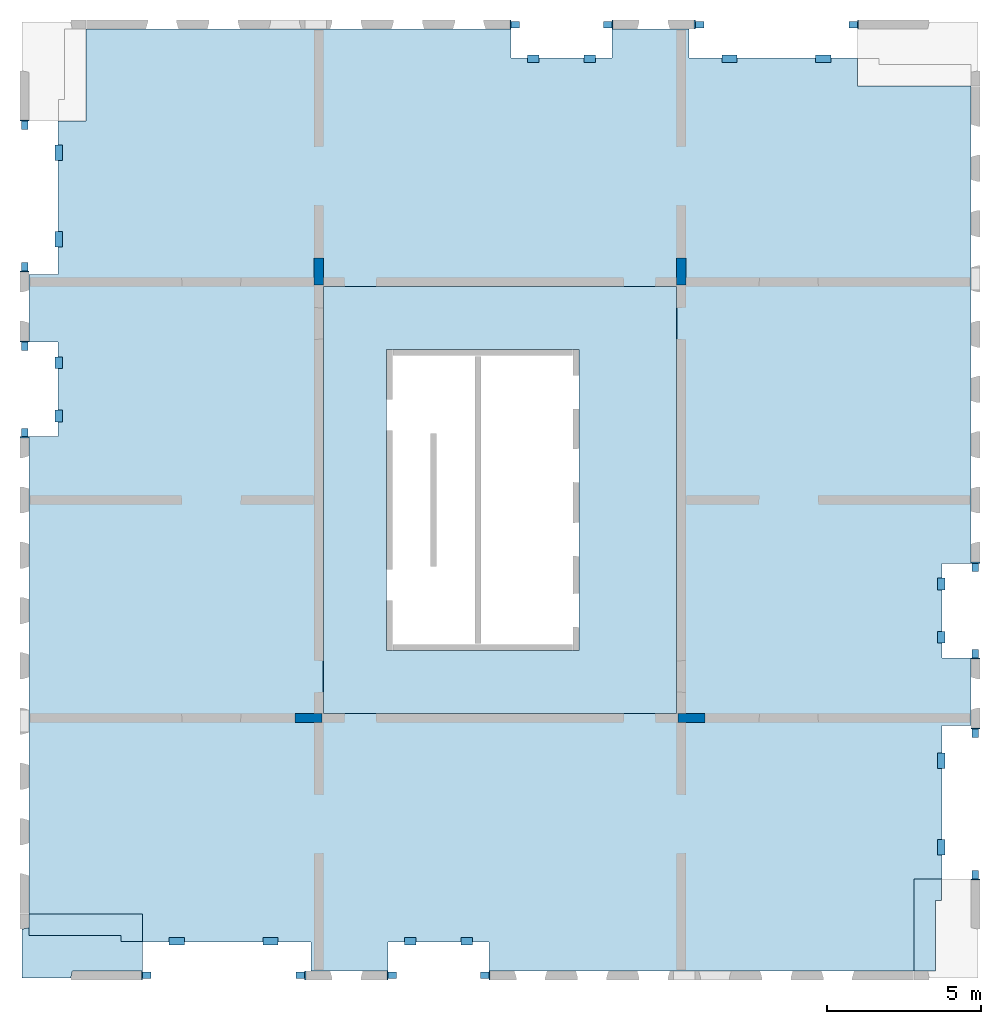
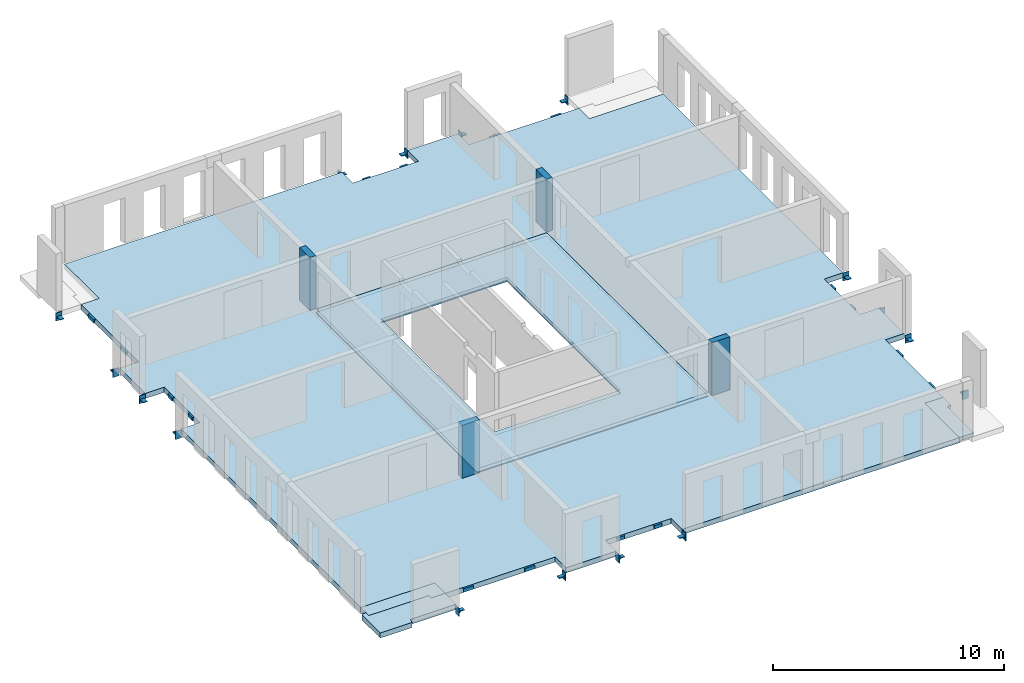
# One storey, part 1 of 4: 32 beams, 6 slabs, 4 columns, 3 openings.
"""IFC2X3 building model written with IfcOpenShell, lengths in millimetres."""

from ifc_helpers import new_model, entity, si_unit, converted_unit, derived_unit, direction, frame, frame_2d, origin, origin_2d_with_axis, place, context, subcontext, project, spatial, polyline, rectangle, outline, extrude, source, transform, mapped, material, layer, layer_set, layer_usage, type_object, type_shapes, element, save


model = new_model("IFC2X3")

# Units and contexts
model_context = context("Model", 3, precision=0.01, world=origin(), true_north=direction((6.12303176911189e-17, 1.0)))
body_context = subcontext(model_context, "Body", "Model", "MODEL_VIEW")
ifc_project = project(units=[si_unit("LENGTHUNIT", "METRE", prefix="MILLI"), si_unit("AREAUNIT", "SQUARE_METRE"), si_unit("VOLUMEUNIT", "CUBIC_METRE"), converted_unit("PLANEANGLEUNIT", "DEGREE", entity("IfcRatioMeasure", 0.0174532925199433), si_unit("PLANEANGLEUNIT", "RADIAN"), dimensions=[0, 0, 0, 0, 0, 0, 0]), si_unit("MASSUNIT", "GRAM", prefix="KILO"), derived_unit("MASSDENSITYUNIT", [(si_unit("MASSUNIT", "GRAM", prefix="KILO"), 1), (si_unit("LENGTHUNIT", "METRE"), -3)]), si_unit("TIMEUNIT", "SECOND"), si_unit("FREQUENCYUNIT", "HERTZ"), si_unit("THERMODYNAMICTEMPERATUREUNIT", "DEGREE_CELSIUS"), derived_unit("THERMALTRANSMITTANCEUNIT", [(si_unit("MASSUNIT", "GRAM", prefix="KILO"), 1), (si_unit("THERMODYNAMICTEMPERATUREUNIT", "KELVIN"), -1), (si_unit("TIMEUNIT", "SECOND"), -3)]), derived_unit("VOLUMETRICFLOWRATEUNIT", [(si_unit("LENGTHUNIT", "METRE"), 3), (si_unit("TIMEUNIT", "SECOND"), -1)]), si_unit("ELECTRICCURRENTUNIT", "AMPERE"), si_unit("ELECTRICVOLTAGEUNIT", "VOLT"), si_unit("POWERUNIT", "WATT"), si_unit("FORCEUNIT", "NEWTON", prefix="KILO"), si_unit("ILLUMINANCEUNIT", "LUX"), si_unit("LUMINOUSFLUXUNIT", "LUMEN"), si_unit("LUMINOUSINTENSITYUNIT", "CANDELA"), derived_unit("USERDEFINED", [(si_unit("MASSUNIT", "GRAM", prefix="KILO"), -1), (si_unit("LENGTHUNIT", "METRE"), -2), (si_unit("TIMEUNIT", "SECOND"), 3), (si_unit("LUMINOUSFLUXUNIT", "LUMEN"), 1)]), derived_unit("LINEARVELOCITYUNIT", [(si_unit("LENGTHUNIT", "METRE"), 1), (si_unit("TIMEUNIT", "SECOND"), -1)]), si_unit("PRESSUREUNIT", "PASCAL"), derived_unit("USERDEFINED", [(si_unit("LENGTHUNIT", "METRE"), -2), (si_unit("MASSUNIT", "GRAM", prefix="KILO"), 1), (si_unit("TIMEUNIT", "SECOND"), -2)])], contexts=[model_context])

# Site, building, storey
site_placement = place(None, origin())
site = spatial("IfcSite", under=ifc_project, at=site_placement, Name="Default", CompositionType="ELEMENT")
building_placement = place(site_placement, origin())
building = spatial("IfcBuilding", under=site, at=building_placement, Name="niet gebruiken", CompositionType="ELEMENT")
storey_placement = place(building_placement, frame((0.0, 0.0, 128160.0)))
storey = spatial("IfcBuildingStorey", under=building, at=storey_placement, Name="41 eenenveertigste verdieping", CompositionType="ELEMENT", Elevation=128160.0)

# Columns
ifc_material_1 = material(Name="NLRS_f2_beton ihwg")
column_type_1 = type_object("IfcColumnType", Name="300x880", PredefinedType="COLUMN", material=ifc_material_1)
shared_shape_1 = source(origin(), body_context, "Body", "SweptSolid", [
    extrude(rectangle(XDim=879.999999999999, YDim=300.000000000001, at=origin_2d_with_axis()), frame((135850.0, 24940.0, 128070.0), z_axis=(0.0, 0.0, 1.0), x_axis=(0.0, -1.0, 0.0)), (0.0, 0.0, 1.0), 2789.99999999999),
])
type_shapes(column_type_1, [shared_shape_1])
column_1_placement = place(storey_placement, frame((0.0, 0.0, -128160.0)))
element("IfcColumn", 1, at=column_1_placement, inside=storey, type_object=column_type_1, material=ifc_material_1, Name="NLRS_28.11_SCO_TLB_beton kolom ihwg_gen:300x880", ObjectType="300x880", context=body_context, shape_type="MappedRepresentation", body=[
    mapped(shared_shape_1, transform((0.0, 0.0, 0.0), scale=1.0)),
])
column_type_2 = type_object("IfcColumnType", Name="300x880", PredefinedType="COLUMN", material=ifc_material_1)
shared_shape_2 = source(origin(), body_context, "Body", "SweptSolid", [
    extrude(rectangle(XDim=879.999999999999, YDim=300.000000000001, at=origin_2d_with_axis()), frame((147650.0, 24940.0, 128070.0), z_axis=(0.0, 0.0, 1.0), x_axis=(0.0, -1.0, 0.0)), (0.0, 0.0, 1.0), 2789.99999999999),
])
type_shapes(column_type_2, [shared_shape_2])
column_2_placement = place(storey_placement, frame((0.0, 0.0, -128160.0)))
element("IfcColumn", 2, at=column_2_placement, inside=storey, type_object=column_type_2, material=ifc_material_1, Name="NLRS_28.11_SCO_TLB_beton kolom ihwg_gen:300x880", ObjectType="300x880", context=body_context, shape_type="MappedRepresentation", body=[
    mapped(shared_shape_2, transform((0.0, 0.0, 0.0), scale=1.0)),
])
column_type_3 = type_object("IfcColumnType", Name="300x880", PredefinedType="COLUMN", material=ifc_material_1)
shared_shape_3 = source(origin(), body_context, "Body", "SweptSolid", [
    extrude(rectangle(XDim=300.000000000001, YDim=880.000000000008, at=origin_2d_with_axis()), frame((135510.003540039, 10400.0, 128070.0), z_axis=(0.0, 0.0, 1.0), x_axis=(0.0, -1.0, 0.0)), (0.0, 0.0, 1.0), 2789.99999999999),
])
type_shapes(column_type_3, [shared_shape_3])
column_3_placement = place(storey_placement, frame((0.0, 0.0, -128160.0)))
element("IfcColumn", 3, at=column_3_placement, inside=storey, type_object=column_type_3, material=ifc_material_1, Name="NLRS_28.11_SCO_TLB_beton kolom ihwg_gen:300x880", ObjectType="300x880", context=body_context, shape_type="MappedRepresentation", body=[
    mapped(shared_shape_3, transform((0.0, 0.0, 0.0), scale=1.0)),
])
column_type_4 = type_object("IfcColumnType", Name="300x880", PredefinedType="COLUMN", material=ifc_material_1)
shared_shape_4 = source(origin(), body_context, "Body", "SweptSolid", [
    extrude(rectangle(XDim=300.000000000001, YDim=880.000000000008, at=origin_2d_with_axis()), frame((147990.0, 10400.0, 128070.0), z_axis=(0.0, 0.0, 1.0), x_axis=(0.0, -1.0, 0.0)), (0.0, 0.0, 1.0), 2789.99999999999),
])
type_shapes(column_type_4, [shared_shape_4])
column_4_placement = place(storey_placement, frame((0.0, 0.0, -128160.0)))
element("IfcColumn", 4, at=column_4_placement, inside=storey, type_object=column_type_4, material=ifc_material_1, Name="NLRS_28.11_SCO_TLB_beton kolom ihwg_gen:300x880", ObjectType="300x880", context=body_context, shape_type="MappedRepresentation", body=[
    mapped(shared_shape_4, transform((0.0, 0.0, 0.0), scale=1.0)),
])

# Beams
ifc_material_2 = material(Name="NLRS_h2_staal")
beam_type_1 = type_object("IfcBeamType", Name="NLRS_28.11_SF_WPB_stalen schoen 4_gen", PredefinedType="BEAM", material=ifc_material_2)
shared_shape_5 = source(origin(), body_context, "Body", "SweptSolid", [
    extrude(outline(polyline([(-69.4999999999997, -23.0), (8.49999999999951, -23.0), (30.5, -1.0), (30.5000000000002, 47.0), (-69.4999999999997, -23.0)])), frame((-105.0, -109.499999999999, -58.0), z_axis=(1.0, 0.0, 0.0), x_axis=(0.0, -1.0, 0.0)), (0.0, 0.0, 1.0), 35.0),
    extrude(outline(polyline([(-69.4999999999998, -23.0), (8.49999999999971, -23.0), (30.5, -1.0), (30.5000000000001, 47.0), (-69.4999999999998, -23.0)])), frame((70.0, -109.499999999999, -58.0), z_axis=(1.0, 0.0, 0.0), x_axis=(0.0, -1.0, 0.0)), (0.0, 0.0, 1.0), 35.0),
    extrude(rectangle(XDim=300.0, YDim=34.9999999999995, at=origin_2d_with_axis()), frame((0.0, -157.5, -230.0), z_axis=(0.0, 0.0, 1.0), x_axis=(-1.0, 0.0, 0.0)), (0.0, 0.0, 1.0), 420.0),
    extrude(rectangle(XDim=210.000000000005, YDim=274.999999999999, at=origin_2d_with_axis()), frame((0.0, -2.4999999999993, -35.0), z_axis=(0.0, 0.0, 1.0), x_axis=(-1.0, 0.0, 0.0)), (0.0, 0.0, 1.0), 35.0),
])
type_shapes(beam_type_1, [shared_shape_5])
beam_1_placement = place(storey_placement, frame((126270.0, 22500.0, -310.0), z_axis=(0.0, 0.0, 1.0), x_axis=(-1.0, 0.0, 0.0)))
element("IfcBeam", 5, at=beam_1_placement, inside=storey, type_object=beam_type_1, material=ifc_material_2, Name="NLRS_28.11_SF_WPB_stalen schoen 4_gen:NLRS_28.11_SF_WPB_stalen schoen 4_gen", ObjectType="NLRS_28.11_SF_WPB_stalen schoen 4_gen", context=body_context, shape_type="MappedRepresentation", body=[
    mapped(shared_shape_5, transform((0.0, 0.0, 0.0), scale=1.0)),
])
beam_2_placement = place(storey_placement, frame((126270.0, 19700.0, -310.0)))
element("IfcBeam", 6, at=beam_2_placement, inside=storey, type_object=beam_type_1, material=ifc_material_2, Name="NLRS_28.11_SF_WPB_stalen schoen 4_gen:NLRS_28.11_SF_WPB_stalen schoen 4_gen", ObjectType="NLRS_28.11_SF_WPB_stalen schoen 4_gen", context=body_context, shape_type="MappedRepresentation", body=[
    mapped(shared_shape_5, transform((0.0, 0.0, 0.0), scale=1.0)),
])
for number, where, z_axis, x_axis, name in (
    (7, (138250.0, 2020.0, -310.0), (0.0, 0.0, 1.0), (0.0, -1.0, 0.0), "NLRS_28.11_SF_WPB_stalen schoen 4_gen:NLRS_28.11_SF_WPB_stalen schoen 4_gen"),
    (8, (141250.0, 2020.0, -310.0), (0.0, 0.0, 1.0), (0.0, 1.0, 0.0), "NLRS_28.11_SF_WPB_stalen schoen 4_gen:NLRS_28.11_SF_WPB_stalen schoen 4_gen"),
):
    element("IfcBeam", number, at=place(storey_placement, frame(where, z_axis=z_axis, x_axis=x_axis)), inside=storey, type_object=beam_type_1, material=ifc_material_2, Name=name, ObjectType="NLRS_28.11_SF_WPB_stalen schoen 4_gen", context=body_context, shape_type="MappedRepresentation", body=[
        mapped(shared_shape_5, transform((0.0, 0.0, 0.0), scale=1.0)),
    ])
beam_3_placement = place(storey_placement, frame((157230.0, 12500.0, -310.0)))
element("IfcBeam", 9, at=beam_3_placement, inside=storey, type_object=beam_type_1, material=ifc_material_2, Name="NLRS_28.11_SF_WPB_stalen schoen 4_gen:NLRS_28.11_SF_WPB_stalen schoen 4_gen", ObjectType="NLRS_28.11_SF_WPB_stalen schoen 4_gen", context=body_context, shape_type="MappedRepresentation", body=[
    mapped(shared_shape_5, transform((0.0, 0.0, 0.0), scale=1.0)),
])
for number, where, z_axis, x_axis, name in (
    (10, (157230.0, 15300.0, -310.0), (0.0, 0.0, 1.0), (-1.0, 0.0, 0.0), "NLRS_28.11_SF_WPB_stalen schoen 4_gen:NLRS_28.11_SF_WPB_stalen schoen 4_gen"),
    (11, (145250.0, 32980.0, -310.0), (0.0, 0.0, 1.0), (0.0, 1.0, 0.0), "NLRS_28.11_SF_WPB_stalen schoen 4_gen:NLRS_28.11_SF_WPB_stalen schoen 4_gen"),
    (12, (142250.0, 32980.0, -310.0), (0.0, 0.0, 1.0), (0.0, -1.0, 0.0), "NLRS_28.11_SF_WPB_stalen schoen 4_gen:NLRS_28.11_SF_WPB_stalen schoen 4_gen"),
):
    element("IfcBeam", number, at=place(storey_placement, frame(where, z_axis=z_axis, x_axis=x_axis)), inside=storey, type_object=beam_type_1, material=ifc_material_2, Name=name, ObjectType="NLRS_28.11_SF_WPB_stalen schoen 4_gen", context=body_context, shape_type="MappedRepresentation", body=[
        mapped(shared_shape_5, transform((0.0, 0.0, 0.0), scale=1.0)),
    ])
beam_type_2 = type_object("IfcBeamType", Name="NLRS_28.11_SF_WPB_stalen schoen 3_gen", PredefinedType="BEAM", material=ifc_material_2)
shared_shape_6 = source(origin(), body_context, "Body", "SweptSolid", [
    extrude(outline(polyline([(-69.4999999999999, -23.0), (8.49999999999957, -23.0), (30.5000000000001, -1.0), (30.5000000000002, 47.0), (-69.4999999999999, -23.0)])), frame((-105.0, -109.499999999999, -63.0), z_axis=(1.0, 0.0, 0.0), x_axis=(0.0, -1.0, 0.0)), (0.0, 0.0, 1.0), 40.0),
    extrude(outline(polyline([(-69.4999999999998, -23.0), (8.49999999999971, -23.0), (30.5, -1.0), (30.5000000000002, 47.0), (-69.4999999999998, -23.0)])), frame((65.0, -109.499999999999, -63.0), z_axis=(1.0, 0.0, 0.0), x_axis=(0.0, -1.0, 0.0)), (0.0, 0.0, 1.0), 40.0),
    extrude(rectangle(XDim=300.0, YDim=39.9999999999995, at=origin_2d_with_axis()), frame((0.0, -160.0, -230.0), z_axis=(0.0, 0.0, 1.0), x_axis=(-1.0, 0.0, 0.0)), (0.0, 0.0, 1.0), 420.0),
    extrude(rectangle(XDim=210.000000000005, YDim=274.999999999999, at=origin_2d_with_axis()), frame((0.0, -2.49999999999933, -40.0), z_axis=(0.0, 0.0, 1.0), x_axis=(-1.0, 0.0, 0.0)), (0.0, 0.0, 1.0), 39.9999999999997),
])
type_shapes(beam_type_2, [shared_shape_6])
beam_4_placement = place(storey_placement, frame((126270.0, 25100.0, -310.0)))
element("IfcBeam", 13, at=beam_4_placement, inside=storey, type_object=beam_type_2, material=ifc_material_2, Name="NLRS_28.11_SF_WPB_stalen schoen 3_gen:NLRS_28.11_SF_WPB_stalen schoen 3_gen", ObjectType="NLRS_28.11_SF_WPB_stalen schoen 3_gen", context=body_context, shape_type="MappedRepresentation", body=[
    mapped(shared_shape_6, transform((0.0, 0.0, 0.0), scale=1.0)),
])
for number, where, z_axis, x_axis, name in (
    (14, (126270.0, 29700.0, -310.0), (0.0, 0.0, 1.0), (-1.0, 0.0, 0.0), "NLRS_28.11_SF_WPB_stalen schoen 3_gen:NLRS_28.11_SF_WPB_stalen schoen 3_gen"),
    (15, (135250.0, 2020.0, -310.0), (0.0, 0.0, 1.0), (0.0, 1.0, 0.0), "NLRS_28.11_SF_WPB_stalen schoen 3_gen:NLRS_28.11_SF_WPB_stalen schoen 3_gen"),
    (16, (130250.0, 2020.0, -310.0), (0.0, 0.0, 1.0), (0.0, -1.0, 0.0), "NLRS_28.11_SF_WPB_stalen schoen 3_gen:NLRS_28.11_SF_WPB_stalen schoen 3_gen"),
    (17, (157230.0, 9900.0, -310.0), (0.0, 0.0, 1.0), (-1.0, 0.0, 0.0), "NLRS_28.11_SF_WPB_stalen schoen 3_gen:NLRS_28.11_SF_WPB_stalen schoen 3_gen"),
):
    element("IfcBeam", number, at=place(storey_placement, frame(where, z_axis=z_axis, x_axis=x_axis)), inside=storey, type_object=beam_type_2, material=ifc_material_2, Name=name, ObjectType="NLRS_28.11_SF_WPB_stalen schoen 3_gen", context=body_context, shape_type="MappedRepresentation", body=[
        mapped(shared_shape_6, transform((0.0, 0.0, 0.0), scale=1.0)),
    ])
beam_5_placement = place(storey_placement, frame((157230.0, 5300.0, -310.0)))
element("IfcBeam", 18, at=beam_5_placement, inside=storey, type_object=beam_type_2, material=ifc_material_2, Name="NLRS_28.11_SF_WPB_stalen schoen 3_gen:NLRS_28.11_SF_WPB_stalen schoen 3_gen", ObjectType="NLRS_28.11_SF_WPB_stalen schoen 3_gen", context=body_context, shape_type="MappedRepresentation", body=[
    mapped(shared_shape_6, transform((0.0, 0.0, 0.0), scale=1.0)),
])
for number, where, z_axis, x_axis, name in (
    (19, (148250.0, 32980.0, -310.0), (0.0, 0.0, 1.0), (0.0, -1.0, 0.0), "NLRS_28.11_SF_WPB_stalen schoen 3_gen:NLRS_28.11_SF_WPB_stalen schoen 3_gen"),
    (20, (153250.0, 32980.0, -310.0), (0.0, 0.0, 1.0), (0.0, 1.0, 0.0), "NLRS_28.11_SF_WPB_stalen schoen 3_gen:NLRS_28.11_SF_WPB_stalen schoen 3_gen"),
):
    element("IfcBeam", number, at=place(storey_placement, frame(where, z_axis=z_axis, x_axis=x_axis)), inside=storey, type_object=beam_type_2, material=ifc_material_2, Name=name, ObjectType="NLRS_28.11_SF_WPB_stalen schoen 3_gen", context=body_context, shape_type="MappedRepresentation", body=[
        mapped(shared_shape_6, transform((0.0, 0.0, 0.0), scale=1.0)),
    ])
beam_type_3 = type_object("IfcBeamType", Name="NLRS_28.11_SF_WPB_stalen handje 7 lang 375_gen:NLRS_28.11_SF_WPB_stalen handje 7_gen", PredefinedType="BEAM")
beam_6_placement = place(storey_placement, frame((127264.874984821, 25744.7511353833, -93.0), z_axis=(0.0, 0.0, 1.0), x_axis=(0.0, 1.0, 0.0)))
element("IfcBeam", 21, at=beam_6_placement, inside=storey, type_object=beam_type_3, material=ifc_material_2, Name="NLRS_28.11_SF_WPB_stalen handje 7 lang 375_gen:NLRS_28.11_SF_WPB_stalen handje 7_gen", ObjectType="NLRS_28.11_SF_WPB_stalen handje 7 lang 375_gen:NLRS_28.11_SF_WPB_stalen handje 7_gen", context=body_context, shape_type="SweptSolid", body=[
    extrude(outline(polyline([(-70.6666666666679, -153.333333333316), (-40.6666666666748, -153.333333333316), (-40.6666666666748, 61.6666666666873), (111.333333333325, 61.66666666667), (111.333333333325, 91.6666666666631), (-70.6666666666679, 91.6666666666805), (-70.6666666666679, -153.333333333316)])), frame((0.0, -91.6666666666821, -70.6666666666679), z_axis=(1.0, 0.0, 0.0), x_axis=(0.0, 0.0, -1.0)), (0.0, 0.0, 1.0), 500.000000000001),
])
beam_7_placement = place(storey_placement, frame((127264.874984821, 28554.7541756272, -93.0), z_axis=(0.0, 0.0, 1.0), x_axis=(0.0, 1.0, 0.0)))
element("IfcBeam", 22, at=beam_7_placement, inside=storey, type_object=beam_type_3, material=ifc_material_2, Name="NLRS_28.11_SF_WPB_stalen handje 7 lang 375_gen:NLRS_28.11_SF_WPB_stalen handje 7_gen", ObjectType="NLRS_28.11_SF_WPB_stalen handje 7 lang 375_gen:NLRS_28.11_SF_WPB_stalen handje 7_gen", context=body_context, shape_type="SweptSolid", body=[
    extrude(outline(polyline([(-70.6666666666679, -153.33333333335), (-40.6666666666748, -153.33333333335), (-40.6666666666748, 61.6666666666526), (111.333333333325, 61.6666666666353), (111.333333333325, 91.6666666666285), (-70.6666666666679, 91.6666666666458), (-70.6666666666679, -153.33333333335)])), frame((0.0, -91.6666666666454, -70.6666666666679), z_axis=(1.0, 0.0, 0.0), x_axis=(0.0, 0.0, -1.0)), (0.0, 0.0, 1.0), 500.000000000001),
])
for number, where, z_axis, x_axis, name in (
    (23, (140862.631597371, 3015.23611279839, -93.0), (0.0, 0.0, 1.0), (-1.0, 0.0, 0.0), "NLRS_28.11_SF_WPB_stalen handje 7 lang 375_gen:NLRS_28.11_SF_WPB_stalen handje 7_gen"),
    (24, (139012.628555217, 3015.23611279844, -93.0), (0.0, 0.0, 1.0), (-1.0, 0.0, 0.0), "NLRS_28.11_SF_WPB_stalen handje 7 lang 375_gen:NLRS_28.11_SF_WPB_stalen handje 7_gen"),
):
    element("IfcBeam", number, at=place(storey_placement, frame(where, z_axis=z_axis, x_axis=x_axis)), inside=storey, type_object=beam_type_3, material=ifc_material_2, Name=name, ObjectType="NLRS_28.11_SF_WPB_stalen handje 7 lang 375_gen:NLRS_28.11_SF_WPB_stalen handje 7_gen", context=body_context, shape_type="SweptSolid", body=[
        extrude(outline(polyline([(-70.666666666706, -153.333333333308), (-40.6666666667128, -153.333333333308), (-40.6666666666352, 61.6666666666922), (111.333333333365, 61.6666666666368), (111.333333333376, 91.6666666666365), (-70.6666666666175, 91.6666666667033), (-70.666666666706, -153.333333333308)])), frame((0.0, -91.6666666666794, -70.6666666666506), z_axis=(1.0, 0.0, 0.0), x_axis=(0.0, 0.0, -1.0)), (0.0, 0.0, 1.0), 375.000000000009),
    ])
for number, where, z_axis, x_axis, name in (
    (25, (134525.131597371, 3015.23611279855, -93.0), (0.0, 0.0, 1.0), (-1.0, 0.0, 0.0), "NLRS_28.11_SF_WPB_stalen handje 7 lang 375_gen:NLRS_28.11_SF_WPB_stalen handje 7_gen"),
    (26, (131475.128555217, 3015.23611279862, -93.0), (0.0, 0.0, 1.0), (-1.0, 0.0, 0.0), "NLRS_28.11_SF_WPB_stalen handje 7 lang 375_gen:NLRS_28.11_SF_WPB_stalen handje 7_gen"),
):
    element("IfcBeam", number, at=place(storey_placement, frame(where, z_axis=z_axis, x_axis=x_axis)), inside=storey, type_object=beam_type_3, material=ifc_material_2, Name=name, ObjectType="NLRS_28.11_SF_WPB_stalen handje 7 lang 375_gen:NLRS_28.11_SF_WPB_stalen handje 7_gen", context=body_context, shape_type="SweptSolid", body=[
        extrude(outline(polyline([(-70.6666666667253, -153.333333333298), (-40.6666666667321, -153.333333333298), (-40.6666666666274, 61.6666666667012), (111.333333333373, 61.6666666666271), (111.333333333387, 91.6666666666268), (-70.6666666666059, 91.666666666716), (-70.6666666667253, -153.333333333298)])), frame((0.0, -91.6666666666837, -70.6666666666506), z_axis=(1.0, 0.0, 0.0), x_axis=(0.0, 0.0, -1.0)), (0.0, 0.0, 1.0), 500.000000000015),
    ])
beam_8_placement = place(storey_placement, frame((156235.125015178, 9255.24886461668, -93.0), z_axis=(0.0, 0.0, 1.0), x_axis=(0.0, -1.0, 0.0)))
element("IfcBeam", 27, at=beam_8_placement, inside=storey, type_object=beam_type_3, material=ifc_material_2, Name="NLRS_28.11_SF_WPB_stalen handje 7 lang 375_gen:NLRS_28.11_SF_WPB_stalen handje 7_gen", ObjectType="NLRS_28.11_SF_WPB_stalen handje 7 lang 375_gen:NLRS_28.11_SF_WPB_stalen handje 7_gen", context=body_context, shape_type="SweptSolid", body=[
    extrude(outline(polyline([(-70.6666666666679, -153.33333333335), (-40.6666666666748, -153.33333333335), (-40.6666666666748, 61.6666666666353), (111.333333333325, 61.6666666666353), (111.333333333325, 91.6666666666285), (-70.6666666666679, 91.6666666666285), (-70.6666666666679, -153.33333333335)])), frame((0.0, -91.6666666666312, -70.6666666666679), z_axis=(1.0, 0.0, 0.0), x_axis=(0.0, 0.0, -1.0)), (0.0, 0.0, 1.0), 500.000000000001),
])
beam_9_placement = place(storey_placement, frame((156235.125015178, 6445.24582437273, -93.0), z_axis=(0.0, 0.0, 1.0), x_axis=(0.0, -1.0, 0.0)))
element("IfcBeam", 28, at=beam_9_placement, inside=storey, type_object=beam_type_3, material=ifc_material_2, Name="NLRS_28.11_SF_WPB_stalen handje 7 lang 375_gen:NLRS_28.11_SF_WPB_stalen handje 7_gen", ObjectType="NLRS_28.11_SF_WPB_stalen handje 7 lang 375_gen:NLRS_28.11_SF_WPB_stalen handje 7_gen", context=body_context, shape_type="SweptSolid", body=[
    extrude(outline(polyline([(-70.6666666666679, -153.33333333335), (-40.6666666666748, -153.33333333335), (-40.6666666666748, 61.6666666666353), (111.333333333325, 61.6666666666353), (111.333333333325, 91.6666666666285), (-70.6666666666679, 91.6666666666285), (-70.6666666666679, -153.33333333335)])), frame((0.0, -91.6666666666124, -70.6666666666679), z_axis=(1.0, 0.0, 0.0), x_axis=(0.0, 0.0, -1.0)), (0.0, 0.0, 1.0), 500.000000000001),
])
for number, where, name in (
    (29, (142637.368402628, 31984.7638872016, -93.0), "NLRS_28.11_SF_WPB_stalen handje 7 lang 375_gen:NLRS_28.11_SF_WPB_stalen handje 7_gen"),
    (30, (144487.371444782, 31984.7638872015, -93.0), "NLRS_28.11_SF_WPB_stalen handje 7 lang 375_gen:NLRS_28.11_SF_WPB_stalen handje 7_gen"),
):
    element("IfcBeam", number, at=place(storey_placement, frame(where)), inside=storey, type_object=beam_type_3, material=ifc_material_2, Name=name, ObjectType="NLRS_28.11_SF_WPB_stalen handje 7 lang 375_gen:NLRS_28.11_SF_WPB_stalen handje 7_gen", context=body_context, shape_type="SweptSolid", body=[
        extrude(outline(polyline([(-70.6666666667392, -153.333333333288), (-40.666666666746, -153.333333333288), (-40.6666666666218, 61.6666666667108), (111.333333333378, 61.666666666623), (111.333333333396, 91.6666666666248), (-70.6666666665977, 91.6666666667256), (-70.6666666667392, -153.333333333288)])), frame((0.0, -91.6666666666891, -70.6666666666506), z_axis=(1.0, 0.0, 0.0), x_axis=(0.0, 0.0, -1.0)), (0.0, 0.0, 1.0), 375.000000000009),
    ])
for number, where, name in (
    (31, (148974.868402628, 31984.7638872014, -93.0), "NLRS_28.11_SF_WPB_stalen handje 7 lang 375_gen:NLRS_28.11_SF_WPB_stalen handje 7_gen"),
    (32, (152024.871444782, 31984.7638872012, -93.0), "NLRS_28.11_SF_WPB_stalen handje 7 lang 375_gen:NLRS_28.11_SF_WPB_stalen handje 7_gen"),
):
    element("IfcBeam", number, at=place(storey_placement, frame(where)), inside=storey, type_object=beam_type_3, material=ifc_material_2, Name=name, ObjectType="NLRS_28.11_SF_WPB_stalen handje 7 lang 375_gen:NLRS_28.11_SF_WPB_stalen handje 7_gen", context=body_context, shape_type="SweptSolid", body=[
        extrude(outline(polyline([(-70.6666666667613, -153.333333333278), (-40.6666666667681, -153.333333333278), (-40.6666666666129, 61.6666666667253), (111.333333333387, 61.6666666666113), (111.333333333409, 91.6666666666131), (-70.6666666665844, 91.6666666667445), (-70.6666666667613, -153.333333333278)])), frame((0.0, -91.6666666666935, -70.6666666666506), z_axis=(1.0, 0.0, 0.0), x_axis=(0.0, 0.0, -1.0)), (0.0, 0.0, 1.0), 500.000000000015),
    ])
beam_10_placement = place(storey_placement, frame((156235.0, 14952.5097115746, -93.0), z_axis=(0.0, 0.0, 1.0), x_axis=(0.0, -1.0, 0.0)))
element("IfcBeam", 33, at=beam_10_placement, inside=storey, type_object=beam_type_3, material=ifc_material_2, Name="NLRS_28.11_SF_WPB_stalen handje 7 lang 375_gen:NLRS_28.11_SF_WPB_stalen handje 7_gen", ObjectType="NLRS_28.11_SF_WPB_stalen handje 7 lang 375_gen:NLRS_28.11_SF_WPB_stalen handje 7_gen", context=body_context, shape_type="SweptSolid", body=[
    extrude(outline(polyline([(-70.6666666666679, -153.333333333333), (-40.6666666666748, -153.333333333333), (-40.6666666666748, 61.66666666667), (111.333333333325, 61.66666666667), (111.333333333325, 91.6666666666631), (-70.6666666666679, 91.6666666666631), (-70.6666666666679, -153.333333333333)])), frame((0.0, -91.6666666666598, -70.6666666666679), z_axis=(1.0, 0.0, 0.0), x_axis=(0.0, 0.0, -1.0)), (0.0, 0.0, 1.0), 375.000000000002),
])
beam_11_placement = place(storey_placement, frame((156235.0, 13222.5097115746, -93.0), z_axis=(0.0, 0.0, 1.0), x_axis=(0.0, -1.0, 0.0)))
element("IfcBeam", 34, at=beam_11_placement, inside=storey, type_object=beam_type_3, material=ifc_material_2, Name="NLRS_28.11_SF_WPB_stalen handje 7 lang 375_gen:NLRS_28.11_SF_WPB_stalen handje 7_gen", ObjectType="NLRS_28.11_SF_WPB_stalen handje 7 lang 375_gen:NLRS_28.11_SF_WPB_stalen handje 7_gen", context=body_context, shape_type="SweptSolid", body=[
    extrude(outline(polyline([(-70.6666666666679, -153.333333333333), (-40.6666666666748, -153.333333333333), (-40.6666666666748, 61.66666666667), (111.333333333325, 61.66666666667), (111.333333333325, 91.6666666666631), (-70.6666666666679, 91.6666666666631), (-70.6666666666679, -153.333333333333)])), frame((0.0, -91.6666666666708, -70.6666666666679), z_axis=(1.0, 0.0, 0.0), x_axis=(0.0, 0.0, -1.0)), (0.0, 0.0, 1.0), 375.000000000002),
])
beam_12_placement = place(storey_placement, frame((127265.0, 20047.4902884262, -93.0), z_axis=(0.0, 0.0, 1.0), x_axis=(0.0, 1.0, 0.0)))
element("IfcBeam", 35, at=beam_12_placement, inside=storey, type_object=beam_type_3, material=ifc_material_2, Name="NLRS_28.11_SF_WPB_stalen handje 7 lang 375_gen:NLRS_28.11_SF_WPB_stalen handje 7_gen", ObjectType="NLRS_28.11_SF_WPB_stalen handje 7 lang 375_gen:NLRS_28.11_SF_WPB_stalen handje 7_gen", context=body_context, shape_type="SweptSolid", body=[
    extrude(outline(polyline([(-70.6666666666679, -153.333333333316), (-40.6666666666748, -153.333333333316), (-40.6666666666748, 61.6666666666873), (111.333333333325, 61.66666666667), (111.333333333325, 91.6666666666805), (-70.6666666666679, 91.6666666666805), (-70.6666666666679, -153.333333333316)])), frame((0.0, -91.6666666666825, -70.6666666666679), z_axis=(1.0, 0.0, 0.0), x_axis=(0.0, 0.0, -1.0)), (0.0, 0.0, 1.0), 375.000000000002),
])
beam_13_placement = place(storey_placement, frame((127265.0, 21777.4902884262, -93.0), z_axis=(0.0, 0.0, 1.0), x_axis=(0.0, 1.0, 0.0)))
element("IfcBeam", 36, at=beam_13_placement, inside=storey, type_object=beam_type_3, material=ifc_material_2, Name="NLRS_28.11_SF_WPB_stalen handje 7 lang 375_gen:NLRS_28.11_SF_WPB_stalen handje 7_gen", ObjectType="NLRS_28.11_SF_WPB_stalen handje 7 lang 375_gen:NLRS_28.11_SF_WPB_stalen handje 7_gen", context=body_context, shape_type="SweptSolid", body=[
    extrude(outline(polyline([(-70.6666666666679, -153.33333333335), (-40.6666666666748, -153.33333333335), (-40.6666666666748, 61.6666666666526), (111.333333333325, 61.6666666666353), (111.333333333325, 91.6666666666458), (-70.6666666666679, 91.6666666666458), (-70.6666666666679, -153.33333333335)])), frame((0.0, -91.6666666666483, -70.6666666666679), z_axis=(1.0, 0.0, 0.0), x_axis=(0.0, 0.0, -1.0)), (0.0, 0.0, 1.0), 375.000000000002),
])

# Slabs
ifc_layer_1 = layer(ifc_material_1, 170.0)
ifc_layer_set_1 = layer_set([ifc_layer_1], Name="Floor:NLRS_23.21_FL_beton ihwg d=170_gen")
ifc_layer_usage_1 = layer_usage(ifc_layer_set_1, "AXIS3", "POSITIVE", 0.0)
slab_1_placement = place(storey_placement, origin())
element("IfcSlab", 37, at=slab_1_placement, inside=storey, material=ifc_layer_usage_1, Name="Floor:NLRS_23.21_FL_beton ihwg d=170_gen", ObjectType="Floor:NLRS_23.21_FL_beton ihwg d=170_gen", PredefinedType="FLOOR", context=body_context, shape_type="SweptSolid", body=[
    extrude(outline(polyline([(-1760.0, -533.33333333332), (1230.0, -533.33333333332), (1230.0, 366.666666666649), (530.0, 366.666666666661), (530.0, 166.666666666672), (-1760.0, 166.666666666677), (-1760.0, -533.33333333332)])), frame((155763.333333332, 3930.0, -90.0), z_axis=(0.0, 0.0, -1.0), x_axis=(0.0, 1.0, 0.0)), (0.0, 0.0, 1.0), 169.999999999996),
])
ifc_material_3 = material(Name="NLRS_f2_beton prefab")
ifc_layer_2 = layer(ifc_material_3, 270.0)
ifc_layer_set_2 = layer_set([ifc_layer_2], Name="Floor:NLRS_23.22_FL_beton prefab d=270 3D element_gen")
ifc_layer_usage_2 = layer_usage(ifc_layer_set_2, "AXIS3", "POSITIVE", 0.0)
slab_2_placement = place(storey_placement, origin())
element("IfcSlab", 38, at=slab_2_placement, inside=storey, material=ifc_layer_usage_2, Name="Floor:NLRS_23.22_FL_beton prefab d=270 3D element_gen", ObjectType="Floor:NLRS_23.22_FL_beton prefab d=270 3D element_gen", PredefinedType="LANDING", context=body_context, shape_type="SweptSolid", body=[
    extrude(outline(polyline([(-982.471394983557, -1442.47139498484), (607.67594043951, -1442.47139498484), (655.152429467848, -1209.47139498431), (1100.52860501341, -1209.47139498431), (1100.52860501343, 2480.5286050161), (-749.471394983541, 2480.5286050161), (-749.471394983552, 195.15242946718), (-982.47139498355, 147.675940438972), (-982.471394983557, -1442.47139498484)])), frame((127629.471394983, 2919.47139499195, -90.0), z_axis=(0.0, 0.0, -1.0), x_axis=(0.0, 1.0, 0.0)), (0.0, 0.0, 1.0), 270.000000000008),
])
ifc_layer_usage_3 = layer_usage(ifc_layer_set_1, "AXIS3", "POSITIVE", 0.0)
slab_3_placement = place(storey_placement, origin())
element("IfcSlab", 39, at=slab_3_placement, inside=storey, material=ifc_layer_usage_3, Name="Floor:NLRS_23.21_FL_beton ihwg d=170_gen", ObjectType="Floor:NLRS_23.21_FL_beton ihwg d=170_gen", PredefinedType="FLOOR", context=body_context, shape_type="SweptSolid", body=[
    extrude(outline(polyline([(-166.666666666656, -2226.66666666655), (533.333333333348, -2226.66666666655), (533.333333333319, 1463.33333333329), (-366.666666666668, 1463.33333333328), (-366.666666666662, 763.333333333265), (-166.666666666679, 763.333333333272), (-166.666666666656, -2226.66666666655)])), frame((128646.666666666, 3486.66666667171, -90.0), z_axis=(0.0, 0.0, -1.0), x_axis=(0.0, 1.0, 0.0)), (0.0, 0.0, 1.0), 169.999999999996),
])

# Slab, opening
ifc_layer_3 = layer(ifc_material_1, 170.0)
ifc_layer_4 = layer(ifc_material_3, 100.0)
ifc_layer_set_3 = layer_set([ifc_layer_3, ifc_layer_4], Name="Floor:NLRS_23.21_FL_breedplaat d=100/270_gen")
ifc_layer_usage_4 = layer_usage(ifc_layer_set_3, "AXIS3", "POSITIVE", 0.0)
slab_4_placement = place(storey_placement, frame((126420.0, 2170.0, -360.0)))
slab_4 = element("IfcSlab", 40, at=slab_4_placement, inside=storey, material=ifc_layer_usage_4, Name="Floor:NLRS_23.21_FL_breedplaat d=100/270_gen", ObjectType="Floor:NLRS_23.21_FL_breedplaat d=100/270_gen", PredefinedType="FLOOR", context=body_context, shape_type="SweptSolid", body=[
    extrude(outline(polyline([(-360.0, 15330.0), (-360.0, 14385.0), (-3640.0, 14385.0), (-3640.0, 15330.0), (-6150.0, 15330.0), (-6150.0, 14385.0), (-11640.0, 14385.0), (-11640.0, 13480.0), (-15330.0, 13480.0), (-15330.0, -2060.0), (-14385.0, -2060.0), (-14385.0, -5140.0), (-15330.0, -5140.0), (-15330.0, -7350.0), (-14385.0, -7350.0), (-14385.0, -12340.0), (-13480.0, -12340.0), (-13480.0, -15330.0), (360.0, -15330.0), (360.0, -14385.0), (3640.0, -14385.0), (3640.0, -15330.0), (6150.0, -15330.0), (6150.0, -14385.0), (11640.0, -14385.0), (11640.0, -13480.0), (15330.0, -13480.0), (15330.0, 2060.0), (14385.0, 2060.0), (14385.0, 5140.0), (15330.0, 5140.0), (15330.0, 7350.0), (14385.0, 7350.0), (14385.0, 12340.0), (13480.0, 12340.0), (13480.0, 15330.0), (-360.0, 15330.0)])), frame((15330.0, 15330.0, 270.0), z_axis=(0.0, 0.0, -1.0), x_axis=(-1.0, 0.0, 0.0)), (0.0, 0.0, 1.0), 270.000000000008),
])
opening_1_placement = place(slab_4_placement, frame((15330.0, 15330.0, 270.0)))
element("IfcOpeningElement", 41, at=opening_1_placement, cuts=slab_4, Name="Floor:NLRS_23.21_FL_breedplaat d=100/270_gen:2", ObjectType="Opening", context=body_context, shape_type="SweptSolid", body=[
    extrude(rectangle(XDim=13899.9999999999, YDim=11500.0, at=origin_2d_with_axis()), frame((0.0, 0.0, 0.0), z_axis=(0.0, 0.0, -1.0), x_axis=(0.0, -1.0, 0.0)), (0.0, 0.0, 1.0), 270.000000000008),
])

ifc_layer_5 = layer(ifc_material_1, 230.0)
ifc_layer_set_4 = layer_set([ifc_layer_5], Name="Floor:NLRS_23.21_FL_vloer=230_gen")
ifc_layer_usage_5 = layer_usage(ifc_layer_set_4, "AXIS3", "POSITIVE", 0.0)
slab_5_placement = place(storey_placement, frame((136000.0, 10549.7638872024, -320.0)))
slab_5 = element("IfcSlab", 42, at=slab_5_placement, inside=storey, material=ifc_layer_usage_5, Name="Floor:NLRS_23.21_FL_vloer=230_gen", ObjectType="Floor:NLRS_23.21_FL_vloer=230_gen", PredefinedType="FLOOR", context=body_context, shape_type="SweptSolid", body=[
    extrude(rectangle(XDim=13900.2361127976, YDim=11500.0, at=frame_2d((0.0, 0.0), x_axis=(0.0, -1.0))), frame((5750.0, 6950.11805639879, 230.0), z_axis=(0.0, 0.0, -1.0), x_axis=(-1.0, 0.0, 0.0)), (0.0, 0.0, 1.0), 230.0),
])
opening_2_placement = place(slab_5_placement, frame((5190.0, 6950.23611279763, 230.0)))
element("IfcOpeningElement", 43, at=opening_2_placement, cuts=slab_5, Name="Floor:NLRS_23.21_FL_vloer=230_gen:2", ObjectType="Opening", context=body_context, shape_type="SweptSolid", body=[
    extrude(rectangle(XDim=9800.0, YDim=6279.99999999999, at=origin_2d_with_axis()), frame((0.0, 0.0, 0.0), z_axis=(0.0, 0.0, -1.0), x_axis=(0.0, -1.0, 0.0)), (0.0, 0.0, 1.0), 230.0),
])

ifc_layer_6 = layer(ifc_material_3, 60.0)
ifc_layer_set_5 = layer_set([ifc_layer_6], Name="Floor:NLRS_23.21_FL_breedplaat d=60_gen")
ifc_layer_usage_6 = layer_usage(ifc_layer_set_5, "AXIS3", "POSITIVE", 0.0)
slab_6_placement = place(storey_placement, frame((135990.0, 10540.0, -320.0)))
slab_6 = element("IfcSlab", 44, at=slab_6_placement, inside=storey, material=ifc_layer_usage_6, Name="Floor:NLRS_23.21_FL_breedplaat d=60_gen", ObjectType="Floor:NLRS_23.21_FL_breedplaat d=60_gen", PredefinedType="FLOOR", context=body_context, shape_type="SweptSolid", body=[
    extrude(rectangle(XDim=13919.9999999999, YDim=11520.0, at=frame_2d((0.0, 0.0), x_axis=(0.0, -1.0))), frame((5760.0, 6960.0, 60.0), z_axis=(0.0, 0.0, -1.0), x_axis=(-1.0, 0.0, 0.0)), (0.0, 0.0, 1.0), 60.0000000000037),
])
opening_3_placement = place(slab_6_placement, frame((5200.0, 6960.0, 60.0)))
element("IfcOpeningElement", 45, at=opening_3_placement, cuts=slab_6, Name="Floor:NLRS_23.21_FL_breedplaat d=60_gen:2", ObjectType="Opening", context=body_context, shape_type="SweptSolid", body=[
    extrude(rectangle(XDim=9820.0, YDim=6299.99999999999, at=origin_2d_with_axis()), frame((0.0, 0.0, 0.0), z_axis=(0.0, 0.0, -1.0), x_axis=(0.0, -1.0, 0.0)), (0.0, 0.0, 1.0), 60.0000000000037),
])

save(model, "model.ifc")
